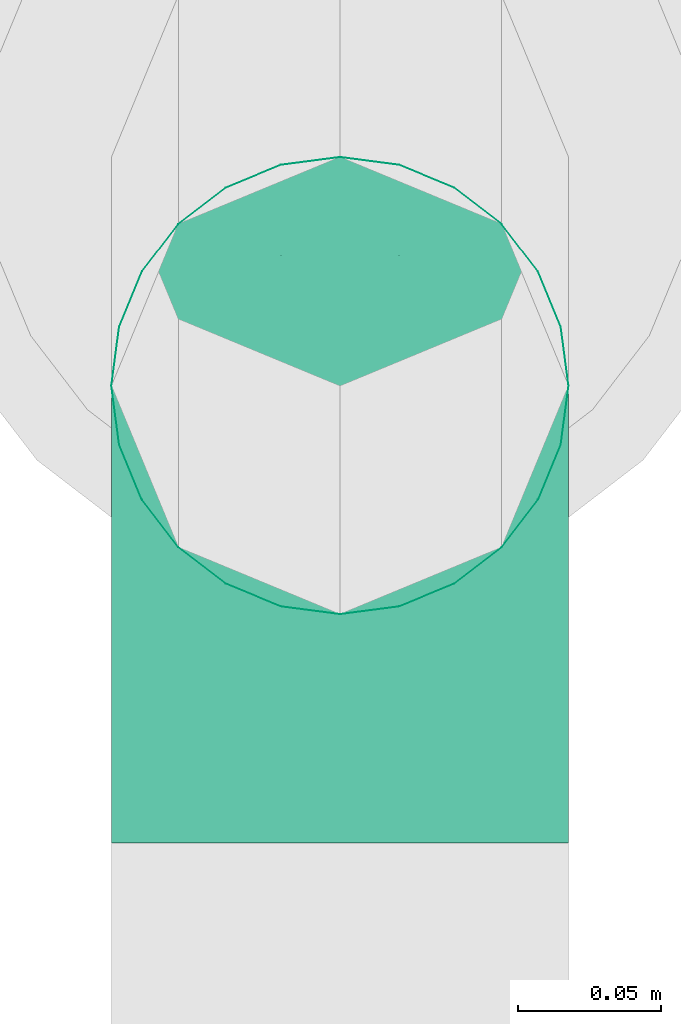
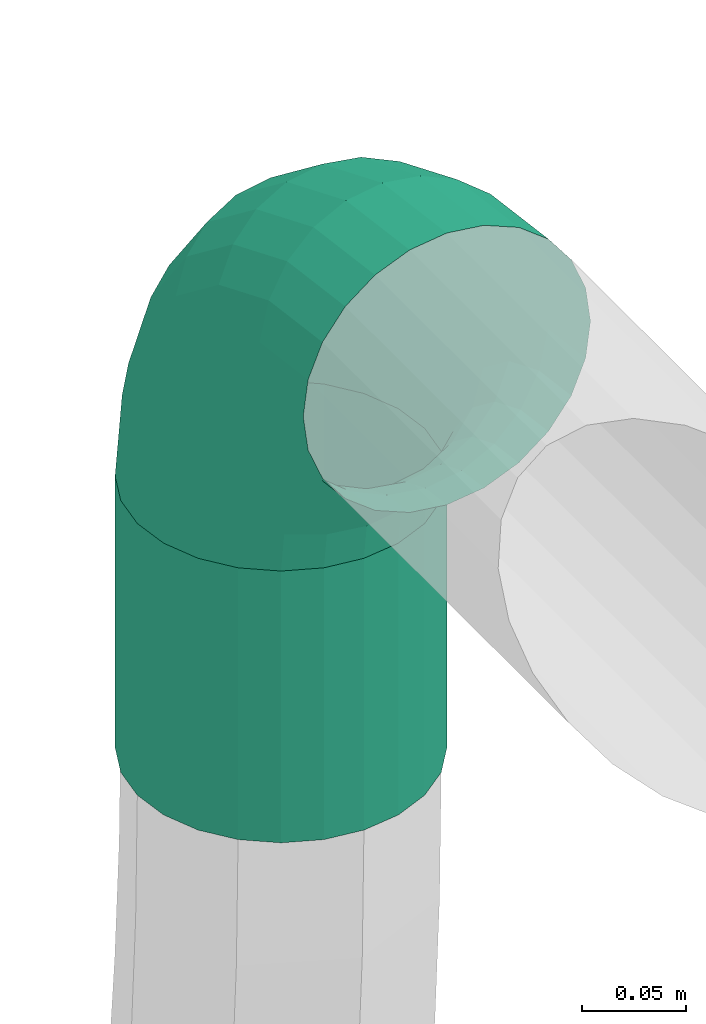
# One storey, part 176 of 374: 1 flow fitting, 1 flow segment.
"""IFC2X3 building model written with IfcOpenShell, lengths in metres."""

import ifcopenshell
import ifcopenshell.guid

model = None  # the IFC model being written
_history = None  # IfcOwnerHistory: only IFC2X3 demands one
_inside = {}  # id of a spatial element -> (the spatial element, [elements in it])
_under = {}  # id of a project, library or spatial element -> (it, [spatial elements below it])
_declared = {}  # id of a project -> (the project, [libraries it declares])
_typed = {}  # id of a type object -> (the type object, [elements of that type])
_made_of = {}  # id of a material, layer set ... -> (it, [elements and type objects made of it])


def new_model(schema):
    """Start an empty IFC model of exactly this schema.

    Asked for "IFC4X3", IfcOpenShell would pick the latest addendum, in which some entities
    have other attributes; the version numbers below select the first issue.
    IFC2X3 requires an IfcOwnerHistory on every rooted entity: one is made here for all.
    """
    global model, _history
    if schema == "IFC4X3":
        model = ifcopenshell.file(schema_version=(4, 3, 0, 0))
    else:
        model = ifcopenshell.file(schema=schema)
    _inside.clear()
    _under.clear()
    _declared.clear()
    _typed.clear()
    _made_of.clear()
    _history = None
    if model.schema == "IFC2X3":
        org = make("IfcOrganization", Name="unknown")
        user = make(
            "IfcPersonAndOrganization",
            ThePerson=make("IfcPerson", FamilyName="unknown"),
            TheOrganization=org,
        )
        app = make(
            "IfcApplication",
            ApplicationDeveloper=org,
            Version="unknown",
            ApplicationFullName="unknown",
            ApplicationIdentifier="unknown",
        )
        _history = make(
            "IfcOwnerHistory",
            OwningUser=user,
            OwningApplication=app,
            ChangeAction="ADDED",
            CreationDate=0,
        )
    return model


def make(cls, **values):
    """One entity of the class cls with the attributes given. An attribute that is None is left unset."""
    return model.create_entity(
        cls, **{name: value for name, value in values.items() if value is not None}
    )


def rooted(cls, **values):
    """An entity with a GlobalId (a new one), such as an element, a storey or a relation."""
    return make(cls, GlobalId=ifcopenshell.guid.new(), OwnerHistory=_history, **values)


def si_unit(unit_type, name, prefix=None):
    """IfcSIUnit, for example si_unit("LENGTHUNIT", "METRE", prefix="MILLI")."""
    return make("IfcSIUnit", UnitType=unit_type, Prefix=prefix, Name=name)


def assignment(units):
    """IfcUnitAssignment: the units of a project."""
    return None if units is None else make("IfcUnitAssignment", Units=units)


def point(xyz):
    """IfcCartesianPoint."""
    return None if xyz is None else make("IfcCartesianPoint", Coordinates=xyz)


def direction(xyz):
    """IfcDirection."""
    return None if xyz is None else make("IfcDirection", DirectionRatios=xyz)


def frame(location, z_axis=None, x_axis=None):
    """IfcAxis2Placement3D, a coordinate frame: its origin and axes. An axis left out is left unset."""
    return make(
        "IfcAxis2Placement3D",
        Location=point(location),
        Axis=direction(z_axis),
        RefDirection=direction(x_axis),
    )


def origin():
    """The frame at (0, 0, 0) with its axes left unset."""
    return frame((0.0, 0.0, 0.0))


def place(relative_to, where):
    """IfcLocalPlacement: puts the frame where relative to a parent placement (None: the world)."""
    return make(
        "IfcLocalPlacement", PlacementRelTo=relative_to, RelativePlacement=where
    )


def context(
    kind, dimensions, precision=None, world=None, true_north=None, identifier=None
):
    """IfcGeometricRepresentationContext, for example the 3D "Model" context."""
    return make(
        "IfcGeometricRepresentationContext",
        ContextIdentifier=identifier,
        ContextType=kind,
        CoordinateSpaceDimension=dimensions,
        Precision=precision,
        WorldCoordinateSystem=world,
        TrueNorth=true_north,
    )


def subcontext(parent, identifier, kind, view, scale=None):
    """IfcGeometricRepresentationSubContext, for example "Body" below "Model"."""
    return make(
        "IfcGeometricRepresentationSubContext",
        ContextIdentifier=identifier,
        ContextType=kind,
        ParentContext=parent,
        TargetScale=scale,
        TargetView=view,
    )


def project(units=None, contexts=None):
    """IfcProject with its units and contexts."""
    return rooted(
        "IfcProject",
        Name="project",
        RepresentationContexts=contexts,
        UnitsInContext=assignment(units),
    )


def spatial(cls, under=None, at=None, **own):
    """A site, building, storey or space (cls), placed at a placement, below another one or the project."""
    s = rooted(cls, ObjectPlacement=at, **own)
    if under is not None:
        _under.setdefault(under.id(), (under, []))[1].append(s)
    return s


def faces_of(points, faces, orient=None, outer=None):
    """IfcFace entities. A face is a list of loops; a loop is a list of indices into points, from 0.

    orient and outer hold one flag for each loop. By default every Orientation is true, the
    first loop of a face is its IfcFaceOuterBound and the others are IfcFaceBound.
    """
    made = []
    for i, loops in enumerate(faces):
        bounds = []
        for j, loop in enumerate(loops):
            is_outer = j == 0 if outer is None else outer[i][j]
            bounds.append(
                make(
                    "IfcFaceOuterBound" if is_outer else "IfcFaceBound",
                    Bound=make("IfcPolyLoop", Polygon=[points[k] for k in loop]),
                    Orientation=True if orient is None else orient[i][j],
                )
            )
        made.append(make("IfcFace", Bounds=bounds))
    return made


def open_shell(faces, orient=None, outer=None):
    """The faces of one IfcOpenShell. surface_model builds it on its shared points."""
    return ("IfcOpenShell", faces, orient, outer)


def surface_model(cls, points, shells):
    """IfcFaceBasedSurfaceModel or IfcShellBasedSurfaceModel (cls): surfaces that need not close."""
    shared = [point(p) for p in points]
    made = [make(c, CfsFaces=faces_of(shared, fs, o, b)) for c, fs, o, b in shells]
    if cls == "IfcFaceBasedSurfaceModel":
        return make(cls, FbsmFaces=made)
    return make(cls, SbsmBoundary=made)


def shape(context_of_items, identifier, shape_type, items):
    """IfcShapeRepresentation: the items that make up one representation, for example the "Body"."""
    return make(
        "IfcShapeRepresentation",
        ContextOfItems=context_of_items,
        RepresentationIdentifier=identifier,
        RepresentationType=shape_type,
        Items=items,
    )


def source(mapping_origin, context_of_items, identifier, shape_type, items):
    """IfcRepresentationMap: a shape defined once, which mapped items show again and again."""
    return make(
        "IfcRepresentationMap",
        MappingOrigin=mapping_origin,
        MappedRepresentation=shape(context_of_items, identifier, shape_type, items),
    )


def transform(
    local_origin,
    x_axis=None,
    y_axis=None,
    z_axis=None,
    scale=None,
    scale2=None,
    scale3=None,
    uniform=True,
):
    """IfcCartesianTransformationOperator3D, or its non-uniform kind. x_axis, y_axis, z_axis: its Axis1, 2, 3."""
    if uniform:
        return make(
            "IfcCartesianTransformationOperator3D",
            Axis1=direction(x_axis),
            Axis2=direction(y_axis),
            LocalOrigin=point(local_origin),
            Scale=scale,
            Axis3=direction(z_axis),
        )
    return make(
        "IfcCartesianTransformationOperator3DnonUniform",
        Axis1=direction(x_axis),
        Axis2=direction(y_axis),
        LocalOrigin=point(local_origin),
        Scale=scale,
        Axis3=direction(z_axis),
        Scale2=scale2,
        Scale3=scale3,
    )


def mapped(mapping_source, mapping_target):
    """IfcMappedItem: shows the shape of a source again, moved by a transform."""
    return make(
        "IfcMappedItem", MappingSource=mapping_source, MappingTarget=mapping_target
    )


def made_of(thing, what):
    """Note that an element or type object is made of a material, layer set ...; save() writes the relation."""
    if what is not None:
        _made_of.setdefault(what.id(), (what, []))[1].append(thing)
    return thing


def element(
    cls,
    number,
    at=None,
    inside=None,
    cuts=None,
    type_object=None,
    material=None,
    context=None,
    identifier="Body",
    shape_type=None,
    held_by="IfcProductDefinitionShape",
    body=None,
    shapes=None,
    **own,
):
    """One element of the class cls, such as IfcWall. Its Tag is "e" and its number.

    at: its placement. inside: the storey or other place that contains it. cuts: it is an
    opening in that element (IfcRelVoidsElement). A single representation is given by context,
    identifier, shape_type and body (its items); several are given by shapes. held_by: the class
    of the entity that holds the representations. save() writes the other relations.
    """
    e = rooted(cls, Tag="e%d" % number, ObjectPlacement=at, **own)
    if body is not None:
        shapes = [shape(context, identifier, shape_type, body)]
    if shapes is not None:
        e.Representation = make(held_by, Representations=shapes)
    if inside is not None:
        _inside.setdefault(inside.id(), (inside, []))[1].append(e)
    if cuts is not None:
        rooted(
            "IfcRelVoidsElement", RelatingBuildingElement=cuts, RelatedOpeningElement=e
        )
    if type_object is not None:
        _typed.setdefault(type_object.id(), (type_object, []))[1].append(e)
    return made_of(e, material)


def aggregate(whole, parts):
    """IfcRelAggregates: a whole, such as a stair, and the parts it consists of."""
    return rooted("IfcRelAggregates", RelatingObject=whole, RelatedObjects=parts)


def save(model, path):
    """Write the relations noted so far, then the file.

    IfcRelAggregates (storeys below a building ...), IfcRelContainedInSpatialStructure (elements
    in a storey), IfcRelDefinesByType, IfcRelAssociatesMaterial and IfcRelDeclares: one each for
    every whole, place, type object, material and project.
    """
    for whole, parts in _under.values():
        aggregate(whole, parts)
    for where, things in _inside.values():
        rooted(
            "IfcRelContainedInSpatialStructure",
            RelatedElements=things,
            RelatingStructure=where,
        )
    for kind, things in _typed.values():
        rooted("IfcRelDefinesByType", RelatedObjects=things, RelatingType=kind)
    for what, things in _made_of.values():
        rooted("IfcRelAssociatesMaterial", RelatedObjects=things, RelatingMaterial=what)
    for by, libraries in _declared.values():
        rooted("IfcRelDeclares", RelatingContext=by, RelatedDefinitions=libraries)
    model.write(path)


model = new_model("IFC2X3")

# Units and contexts
model_context = context("Model", 3, precision=1e-05, world=origin(), true_north=direction((-0.4480736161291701, 0.8939966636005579)))
body_context = subcontext(model_context, "Body", "Model", "MODEL_VIEW")
ifc_project = project(units=[si_unit("LENGTHUNIT", "METRE"), si_unit("AREAUNIT", "SQUARE_METRE"), si_unit("VOLUMEUNIT", "CUBIC_METRE"), si_unit("PLANEANGLEUNIT", "RADIAN"), si_unit("THERMODYNAMICTEMPERATUREUNIT", "KELVIN"), si_unit("MASSUNIT", "GRAM", prefix="KILO"), si_unit("TIMEUNIT", "SECOND")], contexts=[model_context])

# Site, building, storey
site_placement = place(None, origin())
site = spatial("IfcSite", under=ifc_project, at=site_placement, Name="Site 1", CompositionType="ELEMENT")
building_placement = place(site_placement, origin())
building = spatial("IfcBuilding", under=site, at=building_placement, Name="Undefined", CompositionType="ELEMENT")
storey_placement = place(building_placement, origin())
storey = spatial("IfcBuildingStorey", under=building, at=storey_placement, Name="Rez de chauss\x8ee", CompositionType="ELEMENT", Elevation=0.0)

# Flow fitting
shared_shape_1 = source(origin(), body_context, "Body", "SurfaceModel", [
    surface_model("IfcFaceBasedSurfaceModel", [(0.06265257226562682, -8.8817842e-16, 0.0), (0.062296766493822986, 0.02088115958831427, -7.105427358e-15), (0.0003558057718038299, 0.020881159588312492, 7.105427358e-15), (0.0, 0.0, 0.0), (-0.059474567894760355, 0.022956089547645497, -0.015896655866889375), (-0.06051773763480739, 0.002098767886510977, -0.01607928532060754), (-0.11311701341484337, 0.02696454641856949, -0.04660663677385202), (-0.11477645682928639, 0.006153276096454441, -0.04714207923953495), (-0.15691588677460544, 0.0326333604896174, -0.09003710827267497), (-0.15907851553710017, 0.01188721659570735, -0.09107150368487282), (-0.18788636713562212, 0.03957621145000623, -0.14322835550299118), (-0.1904048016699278, 0.01890983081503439, -0.14487384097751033), (-0.2039178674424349, 0.04731995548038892, -0.20255548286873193), (-0.20662048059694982, 0.026742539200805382, -0.20488255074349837), (0.061253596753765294, 0.04103889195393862, -0.0053597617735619), (0.0013989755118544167, 0.04103889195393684, -0.005359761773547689), (-0.05641614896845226, 0.04304393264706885, -0.02072097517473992), (-0.10825177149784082, 0.04691737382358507, -0.050396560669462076), (-0.15057538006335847, 0.05239524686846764, -0.09236417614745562), (-0.18050269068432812, 0.05910424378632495, -0.14376379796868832), (-0.19599420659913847, 0.06658715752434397, -0.20109262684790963), (0.05959415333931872, 0.05909948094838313, -0.01571402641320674), (0.003058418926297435, 0.05909948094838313, -0.01571402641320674), (-0.05155090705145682, 0.06099334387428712, -0.030223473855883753), (-0.10051228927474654, 0.06465200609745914, -0.058253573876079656), (-0.1404890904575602, 0.0698261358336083, -0.09789412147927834), (-0.16875695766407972, 0.0761631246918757, -0.14644367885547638), (-0.18338948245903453, 0.08323111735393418, -0.2005936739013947), (0.057431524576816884, 0.07383212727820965, -0.030357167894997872), (0.005221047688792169, 0.07383212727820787, -0.03035716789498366), (-0.0452104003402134, 0.07558110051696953, -0.04375657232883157), (-0.09042599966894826, 0.07895985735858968, -0.06964223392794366), (-0.12734438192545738, 0.08373814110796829, -0.10625008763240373), (-0.15344962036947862, 0.08959031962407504, -0.15108536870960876), (-0.16696268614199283, 0.0961175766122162, -0.20109262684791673), (0.054913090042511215, 0.0842328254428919, -0.048291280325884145), (0.007739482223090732, 0.08423282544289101, -0.04829128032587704), (-0.037826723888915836, 0.08581307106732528, -0.06039801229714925), (-0.07868026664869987, 0.08886587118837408, -0.08378642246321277), (-0.11203704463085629, 0.09318318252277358, -0.11686262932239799), (-0.13562384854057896, 0.09847078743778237, -0.1573725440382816), (-0.14783327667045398, 0.10436834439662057, -0.20255548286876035), (0.05221047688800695, 0.0895927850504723, -0.06829418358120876), (0.010442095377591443, 0.08959278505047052, -0.06829418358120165), (-0.029903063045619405, 0.09099196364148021, -0.07901370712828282), (-0.06607554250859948, 0.09369496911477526, -0.0997222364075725), (-0.0956102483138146, 0.0975175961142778, -0.12900851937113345), (-0.11649443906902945, 0.10219933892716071, -0.16487674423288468), (-0.12730489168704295, 0.1074211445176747, -0.2048825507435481), (0.04950786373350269, 0.08954673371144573, -0.08900271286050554), (0.013144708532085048, 0.08954673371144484, -0.08900271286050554), (-0.02197940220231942, 0.09076484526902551, -0.09833502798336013), (-0.05347081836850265, 0.09311805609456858, -0.11636367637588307), (-0.0791834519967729, 0.09644599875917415, -0.14186003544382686), (-0.09736502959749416, 0.10052187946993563, -0.17308657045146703), (-0.10677650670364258, 0.1050679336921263, -0.20791524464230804), (0.04698942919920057, 0.08409780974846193, -0.10900561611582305), (0.015663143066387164, 0.08409780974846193, -0.10900561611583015), (-0.014595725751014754, 0.08514719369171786, -0.11704525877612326), (-0.0417250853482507, 0.0871744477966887, -0.13257665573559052), (-0.06387611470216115, 0.09004141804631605, -0.15454136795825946), (-0.07953925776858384, 0.09355272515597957, -0.1814425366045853), (-0.08764709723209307, 0.09746907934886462, -0.21144689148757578), (0.04482680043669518, 0.0736173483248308, -0.12693972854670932), (0.017825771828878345, 0.0736173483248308, -0.12693972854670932), (-0.008255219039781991, 0.07452184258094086, -0.13386932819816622), (-0.03163879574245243, 0.0762691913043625, -0.14725628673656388), (-0.050731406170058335, 0.07874031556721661, -0.1661883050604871), (-0.06423192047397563, 0.08176681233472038, -0.18937519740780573), (-0.07122030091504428, 0.08514243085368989, -0.21523681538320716), (0.04316735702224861, 0.058819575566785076, -0.14158287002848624), (0.019485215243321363, 0.058819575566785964, -0.14158287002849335), (-0.0033899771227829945, 0.05961289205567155, -0.14766070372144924), (-0.02389931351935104, 0.06114546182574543, -0.15940217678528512), (-0.04064511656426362, 0.06331284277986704, -0.17600712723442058), (-0.052486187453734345, 0.06596733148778, -0.19634395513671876), (-0.05861557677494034, 0.06892802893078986, -0.2190267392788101), (0.04212418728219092, 0.040712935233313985, -0.15193713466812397), (0.020528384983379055, 0.040712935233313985, -0.15193713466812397), (-0.0003315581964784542, 0.041436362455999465, -0.15747952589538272), (-0.019034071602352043, 0.04283391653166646, -0.16818660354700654), (-0.03430460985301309, 0.04481035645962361, -0.1833286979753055), (-0.04510251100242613, 0.047230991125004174, -0.20187390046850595), (-0.05069191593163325, 0.04993085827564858, -0.22255838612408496), (0.04176838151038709, 0.02053136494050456, -0.15729689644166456), (0.020884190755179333, 0.02053136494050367, -0.15729689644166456), (0.0007116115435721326, 0.021230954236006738, -0.16265665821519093), (-0.017374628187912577, 0.022582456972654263, -0.17301092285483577), (-0.03214198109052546, 0.024493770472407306, -0.1876540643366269), (-0.042584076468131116, 0.026834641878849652, -0.20558817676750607), (-0.04798930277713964, 0.02944554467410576, -0.22559108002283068), (0.04212418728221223, -0.000349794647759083, -0.15729689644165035), (0.020528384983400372, -0.000349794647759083, -0.15729689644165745), (-0.0003315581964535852, 0.00037363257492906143, -0.1628392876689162), (-0.019034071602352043, 0.0017711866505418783, -0.17354636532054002), (-0.03430460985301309, 0.0037476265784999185, -0.18868845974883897), (-0.04510251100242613, 0.00616826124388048, -0.20723366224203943), (-0.05069191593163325, 0.008868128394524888, -0.22791814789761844), (0.04316735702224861, -0.020507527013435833, -0.15193713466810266), (0.019485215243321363, -0.020507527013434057, -0.15193713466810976), (-0.0033899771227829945, -0.019714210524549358, -0.15801496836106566), (-0.02389931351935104, -0.01818164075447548, -0.16975644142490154), (-0.04064511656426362, -0.01601425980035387, -0.186361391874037), (-0.052486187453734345, -0.013359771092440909, -0.20669821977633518), (-0.05861557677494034, -0.010399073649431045, -0.22938100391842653), (0.04482680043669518, -0.03856811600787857, -0.1415828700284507), (0.017825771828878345, -0.03856811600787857, -0.1415828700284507), (-0.008255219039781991, -0.03766362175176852, -0.1485124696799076), (-0.03163879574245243, -0.03591627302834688, -0.16189942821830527), (-0.050731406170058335, -0.03344514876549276, -0.1808314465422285), (-0.06423192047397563, -0.030418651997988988, -0.20401833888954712), (-0.07122030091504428, -0.027043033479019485, -0.22987995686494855), (0.04698942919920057, -0.05330076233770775, -0.12693972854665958), (0.015663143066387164, -0.05330076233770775, -0.12693972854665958), (-0.014595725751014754, -0.05225137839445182, -0.1349793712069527), (-0.0417250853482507, -0.05022412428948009, -0.15051076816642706), (-0.06387611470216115, -0.047357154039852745, -0.172475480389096), (-0.07953925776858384, -0.043845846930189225, -0.19937664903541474), (-0.08764709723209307, -0.03992949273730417, -0.2293810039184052), (0.04950786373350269, -0.06370146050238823, -0.10900561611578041), (0.013144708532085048, -0.06370146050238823, -0.10900561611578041), (-0.02197940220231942, -0.06248334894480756, -0.11833793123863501), (-0.05347081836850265, -0.06013013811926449, -0.13636657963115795), (-0.0791834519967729, -0.05680219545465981, -0.16186293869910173), (-0.09736502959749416, -0.05272631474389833, -0.1930894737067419), (-0.10677650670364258, -0.04818026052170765, -0.2279181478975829), (0.05221047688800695, -0.06906142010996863, -0.08900271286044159), (0.010442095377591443, -0.06906142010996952, -0.08900271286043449), (-0.029903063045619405, -0.06766224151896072, -0.09972223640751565), (-0.06607554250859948, -0.06495923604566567, -0.12043076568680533), (-0.0956102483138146, -0.06113660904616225, -0.14971704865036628), (-0.11649443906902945, -0.05645486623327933, -0.1855852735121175), (-0.12730489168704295, -0.05123306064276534, -0.22559108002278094), (0.054913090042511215, -0.06901536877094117, -0.06829418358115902), (0.007739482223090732, -0.06901536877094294, -0.06829418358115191), (-0.037826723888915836, -0.06743512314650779, -0.08040091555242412), (-0.07868026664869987, -0.06438232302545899, -0.10378932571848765), (-0.11203704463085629, -0.06006501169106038, -0.13686553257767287), (-0.13562384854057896, -0.0547774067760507, -0.17737544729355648), (-0.14783327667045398, -0.04887984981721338, -0.22255838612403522), (0.057431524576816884, -0.06356644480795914, -0.0482912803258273), (0.005221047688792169, -0.06356644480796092, -0.04829128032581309), (-0.0452104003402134, -0.061817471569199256, -0.0616906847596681), (-0.09042599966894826, -0.05843871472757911, -0.0875763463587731), (-0.12734438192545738, -0.05366043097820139, -0.12418420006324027), (-0.15344962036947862, -0.04780825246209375, -0.1690194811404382), (-0.16696268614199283, -0.041280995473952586, -0.21902673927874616), (0.05959415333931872, -0.05308598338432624, -0.030357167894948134), (0.003058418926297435, -0.05308598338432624, -0.030357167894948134), (-0.05155090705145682, -0.05119212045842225, -0.04486661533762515), (-0.10051228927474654, -0.04753345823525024, -0.07289671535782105), (-0.1404890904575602, -0.04235932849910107, -0.11253726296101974), (-0.16875695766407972, -0.03602233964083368, -0.16108682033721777), (-0.18338948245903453, -0.02895434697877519, -0.2152368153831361), (0.061253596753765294, -0.03828821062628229, -0.015714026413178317), (0.0013989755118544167, -0.03828821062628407, -0.015714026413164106), (-0.05641614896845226, -0.03628316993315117, -0.031075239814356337), (-0.10825177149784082, -0.03240972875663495, -0.06075082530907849), (-0.15057538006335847, -0.026931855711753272, -0.10271844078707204), (-0.18050269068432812, -0.02022285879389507, -0.15411806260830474), (-0.19599420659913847, -0.012739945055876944, -0.21144689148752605), (0.062296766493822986, -0.020181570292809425, -0.005359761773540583), (0.0003558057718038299, -0.020181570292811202, -0.0053597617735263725), (-0.059474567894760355, -0.018106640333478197, -0.021256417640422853), (-0.11311701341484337, -0.014098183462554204, -0.051966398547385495), (-0.15691588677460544, -0.00842936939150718, -0.09539687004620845), (-0.18788636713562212, -0.0014865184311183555, -0.14858811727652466), (-0.2039178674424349, 0.006257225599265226, -0.2079152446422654)], [open_shell([[[0, 1, 2, 3]], [[3, 2, 4, 5]], [[5, 4, 6, 7]], [[7, 6, 8, 9]], [[9, 8, 10, 11]], [[11, 10, 12, 13]], [[1, 14, 15, 2]], [[2, 15, 16, 4]], [[4, 16, 17, 6]], [[6, 17, 18, 8]], [[8, 18, 19, 10]], [[10, 19, 20, 12]], [[14, 21, 22, 15]], [[15, 22, 23, 16]], [[16, 23, 24, 17]], [[17, 24, 25, 18]], [[18, 25, 26, 19]], [[19, 26, 27, 20]], [[21, 28, 29, 22]], [[22, 29, 30, 23]], [[23, 30, 31, 24]], [[24, 31, 32, 25]], [[25, 32, 33, 26]], [[26, 33, 34, 27]], [[28, 35, 36, 29]], [[29, 36, 37, 30]], [[30, 37, 38, 31]], [[31, 38, 39, 32]], [[32, 39, 40, 33]], [[33, 40, 41, 34]], [[35, 42, 43, 36]], [[36, 43, 44, 37]], [[37, 44, 45, 38]], [[38, 45, 46, 39]], [[39, 46, 47, 40]], [[40, 47, 48, 41]], [[42, 49, 50, 43]], [[43, 50, 51, 44]], [[44, 51, 52, 45]], [[45, 52, 53, 46]], [[46, 53, 54, 47]], [[47, 54, 55, 48]], [[49, 56, 57, 50]], [[50, 57, 58, 51]], [[51, 58, 59, 52]], [[52, 59, 60, 53]], [[53, 60, 61, 54]], [[54, 61, 62, 55]], [[56, 63, 64, 57]], [[57, 64, 65, 58]], [[58, 65, 66, 59]], [[59, 66, 67, 60]], [[60, 67, 68, 61]], [[61, 68, 69, 62]], [[63, 70, 71, 64]], [[64, 71, 72, 65]], [[65, 72, 73, 66]], [[66, 73, 74, 67]], [[67, 74, 75, 68]], [[68, 75, 76, 69]], [[70, 77, 78, 71]], [[71, 78, 79, 72]], [[72, 79, 80, 73]], [[73, 80, 81, 74]], [[74, 81, 82, 75]], [[75, 82, 83, 76]], [[77, 84, 85, 78]], [[78, 85, 86, 79]], [[79, 86, 87, 80]], [[80, 87, 88, 81]], [[81, 88, 89, 82]], [[82, 89, 90, 83]], [[84, 91, 92, 85]], [[85, 92, 93, 86]], [[86, 93, 94, 87]], [[87, 94, 95, 88]], [[88, 95, 96, 89]], [[89, 96, 97, 90]], [[91, 98, 99, 92]], [[92, 99, 100, 93]], [[93, 100, 101, 94]], [[94, 101, 102, 95]], [[95, 102, 103, 96]], [[96, 103, 104, 97]], [[98, 105, 106, 99]], [[99, 106, 107, 100]], [[100, 107, 108, 101]], [[101, 108, 109, 102]], [[102, 109, 110, 103]], [[103, 110, 111, 104]], [[105, 112, 113, 106]], [[106, 113, 114, 107]], [[107, 114, 115, 108]], [[108, 115, 116, 109]], [[109, 116, 117, 110]], [[110, 117, 118, 111]], [[112, 119, 120, 113]], [[113, 120, 121, 114]], [[114, 121, 122, 115]], [[115, 122, 123, 116]], [[116, 123, 124, 117]], [[117, 124, 125, 118]], [[119, 126, 127, 120]], [[120, 127, 128, 121]], [[121, 128, 129, 122]], [[122, 129, 130, 123]], [[123, 130, 131, 124]], [[124, 131, 132, 125]], [[126, 133, 134, 127]], [[127, 134, 135, 128]], [[128, 135, 136, 129]], [[129, 136, 137, 130]], [[130, 137, 138, 131]], [[131, 138, 139, 132]], [[133, 140, 141, 134]], [[134, 141, 142, 135]], [[135, 142, 143, 136]], [[136, 143, 144, 137]], [[137, 144, 145, 138]], [[138, 145, 146, 139]], [[140, 147, 148, 141]], [[141, 148, 149, 142]], [[142, 149, 150, 143]], [[143, 150, 151, 144]], [[144, 151, 152, 145]], [[145, 152, 153, 146]], [[147, 154, 155, 148]], [[148, 155, 156, 149]], [[149, 156, 157, 150]], [[150, 157, 158, 151]], [[151, 158, 159, 152]], [[152, 159, 160, 153]], [[154, 161, 162, 155]], [[155, 162, 163, 156]], [[156, 163, 164, 157]], [[157, 164, 165, 158]], [[158, 165, 166, 159]], [[159, 166, 167, 160]], [[161, 0, 3, 162]], [[162, 3, 5, 163]], [[163, 5, 7, 164]], [[164, 7, 9, 165]], [[165, 9, 11, 166]], [[166, 11, 13, 167]]])]),
])
flow_fitting_placement = place(storey_placement, origin())
element("IfcFlowFitting", 1, at=flow_fitting_placement, inside=storey, Name="Coude", ObjectType="Coude", context=body_context, shape_type="MappedRepresentation", body=[
    mapped(shared_shape_1, transform((60.28924025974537, 16.946821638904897, 3.7021165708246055), x_axis=(0.0, 0.13052619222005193, -0.9914448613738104), y_axis=(-0.9915887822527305, -0.12832103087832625, -0.016893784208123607), z_axis=(-0.12942830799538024, 0.9831056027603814, 0.12942830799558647))),
])

# Flow segment
shared_shape_2 = source(origin(), body_context, "Body", "SurfaceModel", [
    surface_model("IfcFaceBasedSurfaceModel", [(0.0, 0.020884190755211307, 0.0), (0.0, 0.0, 0.0), (0.16000000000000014, 0.0, -4.4408921e-16), (0.16000000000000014, 0.0208841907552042, -4.4408921e-16), (0.0, -0.020172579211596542, -0.005405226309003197), (0.16000000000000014, -0.020172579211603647, -0.005405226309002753), (0.0, -0.03825881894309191, -0.015847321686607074), (0.16000000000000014, -0.03825881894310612, -0.015847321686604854), (0.0, -0.05302617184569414, -0.0306146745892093), (0.16000000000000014, -0.05302617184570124, -0.03061467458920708), (0.0, -0.06346826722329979, -0.04870091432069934), (0.16000000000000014, -0.0634682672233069, -0.04870091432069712), (0.0, -0.06887349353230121, -0.06887349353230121), (0.16000000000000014, -0.06887349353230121, -0.06887349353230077), (0.0, -0.06887349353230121, -0.08975768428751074), (0.16000000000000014, -0.06887349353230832, -0.08975768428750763), (0.0, -0.06346826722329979, -0.10993026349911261), (0.16000000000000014, -0.0634682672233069, -0.10993026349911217), (0.0, -0.05302617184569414, -0.12801650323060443), (0.16000000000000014, -0.05302617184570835, -0.1280165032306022), (0.0, -0.038258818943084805, -0.14278385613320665), (0.16000000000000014, -0.03825881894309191, -0.14278385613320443), (0.0, -0.020172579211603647, -0.15322595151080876), (0.16000000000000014, -0.020172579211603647, -0.1532259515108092), (0.0, 7.105427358e-15, -0.15863117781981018), (0.16000000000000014, -7.105427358e-15, -0.15863117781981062), (0.0, 0.020884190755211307, -0.15863117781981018), (0.16000000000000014, 0.0208841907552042, -0.15863117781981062), (0.0, 0.04105676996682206, -0.15322595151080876), (0.16000000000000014, 0.04105676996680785, -0.1532259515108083), (0.0, 0.05914300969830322, -0.1427838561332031), (0.16000000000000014, 0.05914300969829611, -0.14278385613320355), (0.0, 0.07391036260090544, -0.12801650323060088), (0.16000000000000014, 0.07391036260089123, -0.1280165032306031), (0.0, 0.0843524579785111, -0.10993026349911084), (0.16000000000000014, 0.08435245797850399, -0.10993026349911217), (0.0, 0.08975768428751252, -0.08975768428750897), (0.16000000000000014, 0.08975768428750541, -0.08975768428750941), (0.0, 0.08975768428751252, -0.06887349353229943), (0.16000000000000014, 0.08975768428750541, -0.06887349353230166), (0.0, 0.0843524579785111, -0.048700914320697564), (0.16000000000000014, 0.08435245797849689, -0.04870091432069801), (0.0, 0.07391036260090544, -0.030614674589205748), (0.16000000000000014, 0.07391036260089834, -0.03061467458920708), (0.0, 0.05914300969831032, -0.015847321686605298), (0.16000000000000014, 0.05914300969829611, -0.01584732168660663), (0.0, 0.04105676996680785, -0.005405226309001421), (0.16000000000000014, 0.04105676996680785, -0.005405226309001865)], [open_shell([[[0, 1, 2, 3]], [[1, 4, 5, 2]], [[4, 6, 7, 5]], [[6, 8, 9, 7]], [[8, 10, 11, 9]], [[10, 12, 13, 11]], [[12, 14, 15, 13]], [[14, 16, 17, 15]], [[16, 18, 19, 17]], [[18, 20, 21, 19]], [[20, 22, 23, 21]], [[22, 24, 25, 23]], [[24, 26, 27, 25]], [[26, 28, 29, 27]], [[28, 30, 31, 29]], [[30, 32, 33, 31]], [[32, 34, 35, 33]], [[34, 36, 37, 35]], [[36, 38, 39, 37]], [[38, 40, 41, 39]], [[40, 42, 43, 41]], [[42, 44, 45, 43]], [[44, 46, 47, 45]], [[46, 0, 3, 47]]])]),
])
flow_segment_placement = place(storey_placement, origin())
element("IfcFlowSegment", 2, at=flow_segment_placement, inside=storey, Name="Tube", ObjectType="Tube", context=body_context, shape_type="MappedRepresentation", body=[
    mapped(shared_shape_2, transform((60.30994578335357, 16.797725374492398, 3.4800000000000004), x_axis=(0.0, 0.0, 1.0), y_axis=(-0.9914448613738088, -0.13052619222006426, 0.0), z_axis=(0.13052619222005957, -0.9914448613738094, 0.0))),
])

save(model, "model.ifc")
